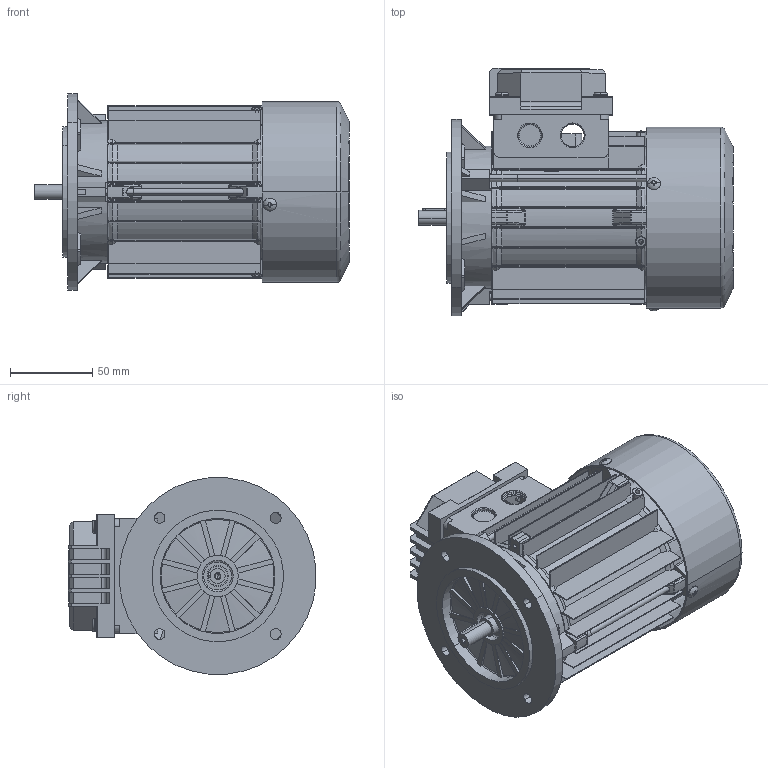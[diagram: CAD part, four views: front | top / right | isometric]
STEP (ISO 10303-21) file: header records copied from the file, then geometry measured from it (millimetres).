
FILE_DESCRIPTION (( 'STEP AP214' ), '1' );
FILE_NAME ('M24AB0010.STEP', '2019-10-07T10:07:41', ( '' ), ( '' ), 'SwSTEP 2.0', 'SolidWorks 2018', '' );
FILE_SCHEMA (( 'AUTOMOTIVE_DESIGN' ));
Length unit declared in the file: millimetre
Products named in the file (12): Guarnizione Coperchio Morsettiera gr. 56 - DHAF0102; Vite testa rotonda M3; Cuffia SM 56 - DHAL0103; Chiavetta 56; Albero SM 56; Vite per coperchio morsettiera; Tirante BM-SM 56; Scudo a flangia B5 BM 56 - DHAA0002; Coperchio Morsettiera BM 56 - DHAE0002; Scudo Lato Comando B3 BM 56 - DHAD0002; Carcassa 56 B5; M24AB0010
Assembly tree (18 placements, depth 2):
  M24AB0010
    Carcassa 56 B5
    Scudo Lato Comando B3 BM 56 - DHAD0002
    Coperchio Morsettiera BM 56 - DHAE0002
    Scudo a flangia B5 BM 56 - DHAA0002
    Tirante BM-SM 56  x3
    Vite per coperchio morsettiera  x4
    Albero SM 56
    Chiavetta 56
    Cuffia SM 56 - DHAL0103
    Vite testa rotonda M3  x3
    Guarnizione Coperchio Morsettiera gr. 56 - DHAF0102
Bounding box: 191.5 x 150.77 x 119.54 mm (x, y, z)
Volume: 360799.4 mm3; surface area: 288051.6 mm2
Topology: 21 solids, 21 shells, 2696 faces, 7251 edges, 4606 vertices
Faces by surface type: plane 1022, cylinder 975, torus 328, cone 235, bspline 114, sphere 22
Entity records: 84710 total; most frequent: CARTESIAN_POINT 25557, ORIENTED_EDGE 12882, DIRECTION 11606, EDGE_CURVE 6441, AXIS2_PLACEMENT_3D 4352, VERTEX_POINT 4124, LINE 2902, VECTOR 2902
